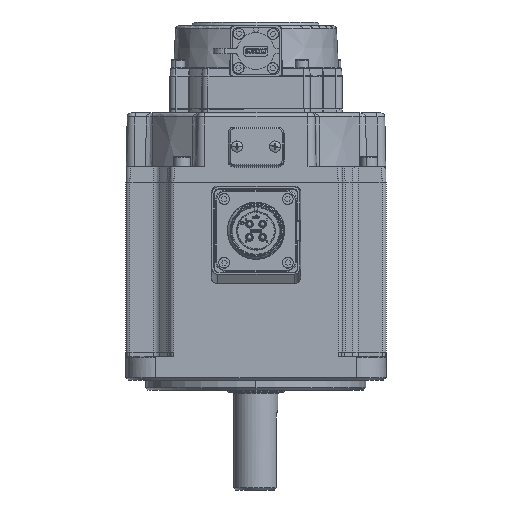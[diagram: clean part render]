
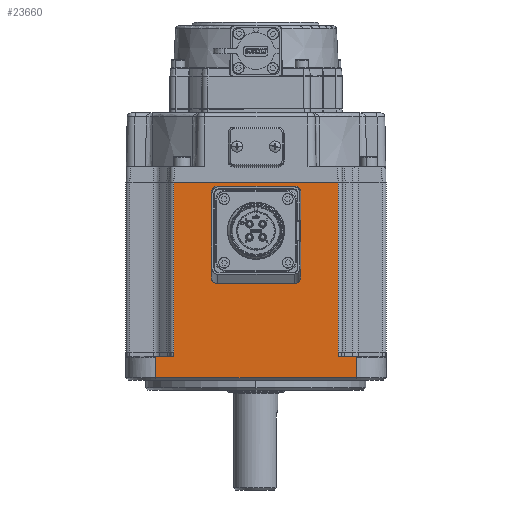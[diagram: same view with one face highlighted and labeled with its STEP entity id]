
A CAD part, left-side view. The second image highlights one B-rep face of the part: STEP entity #23660.
In plain terms, the highlighted planar face has unit normal (-1, 0, 0).
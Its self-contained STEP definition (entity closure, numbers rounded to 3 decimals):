
#2545 = CARTESIAN_POINT ( 'NONE',  ( -65., -43., 40.75 ) ) ;
#3335 = CARTESIAN_POINT ( 'NONE',  ( -65., -50., -56.75 ) ) ;
#3791 = LINE ( 'NONE', #95110, #38403 ) ;
#4225 = LINE ( 'NONE', #71577, #4676 ) ;
#4676 = VECTOR ( 'NONE', #29246, 1000. ) ;
#8214 = VECTOR ( 'NONE', #63442, 1000. ) ;
#9898 = VERTEX_POINT ( 'NONE', #16990 ) ;
#10588 = VERTEX_POINT ( 'NONE', #91207 ) ;
#13361 = CARTESIAN_POINT ( 'NONE',  ( -65., -41.035, 40.75 ) ) ;
#16286 = DIRECTION ( 'NONE',  ( 0., 0., 1. ) ) ;
#16990 = CARTESIAN_POINT ( 'NONE',  ( -65., 41.035, -43.75 ) ) ;
#18468 = CARTESIAN_POINT ( 'NONE',  ( -65., -41.459, -46.104 ) ) ;
#20657 = LINE ( 'NONE', #18468, #64518 ) ;
#21568 = EDGE_CURVE ( 'NONE', #9898, #35371, #3791, .T. ) ;
#23660 = ADVANCED_FACE ( 'NONE', ( #94947 ), #103880, .F. ) ;
#24792 = VECTOR ( 'NONE', #31161, 1000. ) ;
#26735 = CARTESIAN_POINT ( 'NONE',  ( -65., -50., -46.256 ) ) ;
#27571 = DIRECTION ( 'NONE',  ( 0., 1., 0. ) ) ;
#29246 = DIRECTION ( 'NONE',  ( 0., -1., 0. ) ) ;
#29871 = VECTOR ( 'NONE', #82827, 1000. ) ;
#31161 = DIRECTION ( 'NONE',  ( 0., 0., 1. ) ) ;
#31172 = AXIS2_PLACEMENT_3D ( 'NONE', #2545, #36486, #27571 ) ;
#31598 = CARTESIAN_POINT ( 'NONE',  ( -65., -44.464, -44.627 ) ) ;
#33246 = LINE ( 'NONE', #31598, #29871 ) ;
#33392 = CARTESIAN_POINT ( 'NONE',  ( -65., 41.035, 40.75 ) ) ;
#35371 = VERTEX_POINT ( 'NONE', #99896 ) ;
#36276 = DIRECTION ( 'NONE',  ( 0., -1., -0.018 ) ) ;
#36486 = DIRECTION ( 'NONE',  ( 1., 0., 0. ) ) ;
#37175 = ORIENTED_EDGE ( 'NONE', *, *, #57877, .F. ) ;
#37188 = DIRECTION ( 'NONE',  ( 0., 0., -1. ) ) ;
#38403 = VECTOR ( 'NONE', #37188, 1000. ) ;
#38578 = VERTEX_POINT ( 'NONE', #75082 ) ;
#40437 = LINE ( 'NONE', #50988, #43086 ) ;
#40669 = LINE ( 'NONE', #33392, #76987 ) ;
#42014 = VERTEX_POINT ( 'NONE', #49707 ) ;
#43086 = VECTOR ( 'NONE', #76032, 1000. ) ;
#43805 = CARTESIAN_POINT ( 'NONE',  ( -65., -41.035, -43.75 ) ) ;
#44937 = VERTEX_POINT ( 'NONE', #43805 ) ;
#46329 = ORIENTED_EDGE ( 'NONE', *, *, #52702, .F. ) ;
#48617 = LINE ( 'NONE', #83127, #83927 ) ;
#49103 = ORIENTED_EDGE ( 'NONE', *, *, #21568, .T. ) ;
#49655 = CARTESIAN_POINT ( 'NONE',  ( -65., 50., 40.75 ) ) ;
#49707 = CARTESIAN_POINT ( 'NONE',  ( -65., -50., -56.75 ) ) ;
#50106 = DIRECTION ( 'NONE',  ( 0., 0., -1. ) ) ;
#50942 = CARTESIAN_POINT ( 'NONE',  ( -65., 50., -46.247 ) ) ;
#50988 = CARTESIAN_POINT ( 'NONE',  ( -65., -50., 40.75 ) ) ;
#52702 = EDGE_CURVE ( 'NONE', #10588, #75759, #20657, .T. ) ;
#52858 = EDGE_CURVE ( 'NONE', #102066, #9898, #40669, .T. ) ;
#53142 = VERTEX_POINT ( 'NONE', #70119 ) ;
#54002 = LINE ( 'NONE', #3335, #8214 ) ;
#57877 = EDGE_CURVE ( 'NONE', #102066, #38578, #4225, .T. ) ;
#60494 = ORIENTED_EDGE ( 'NONE', *, *, #84887, .T. ) ;
#62320 = VERTEX_POINT ( 'NONE', #50942 ) ;
#63442 = DIRECTION ( 'NONE',  ( 0., -1., 0. ) ) ;
#64518 = VECTOR ( 'NONE', #36276, 1000. ) ;
#65012 = ORIENTED_EDGE ( 'NONE', *, *, #52858, .T. ) ;
#65273 = LINE ( 'NONE', #49655, #83609 ) ;
#65377 = EDGE_CURVE ( 'NONE', #10588, #44937, #97445, .T. ) ;
#68449 = EDGE_CURVE ( 'NONE', #62320, #53142, #65273, .T. ) ;
#69284 = ORIENTED_EDGE ( 'NONE', *, *, #68449, .T. ) ;
#69666 = ORIENTED_EDGE ( 'NONE', *, *, #65377, .T. ) ;
#70119 = CARTESIAN_POINT ( 'NONE',  ( -65., 50., -56.75 ) ) ;
#71377 = EDGE_CURVE ( 'NONE', #44937, #38578, #48617, .T. ) ;
#71577 = CARTESIAN_POINT ( 'NONE',  ( -65., -43., 40.75 ) ) ;
#75082 = CARTESIAN_POINT ( 'NONE',  ( -65., -41.035, 40.75 ) ) ;
#75759 = VERTEX_POINT ( 'NONE', #26735 ) ;
#76032 = DIRECTION ( 'NONE',  ( 0., 0., 1. ) ) ;
#76987 = VECTOR ( 'NONE', #50106, 1000. ) ;
#79461 = ORIENTED_EDGE ( 'NONE', *, *, #102474, .T. ) ;
#82827 = DIRECTION ( 'NONE',  ( 0., -1., 0.017 ) ) ;
#82901 = EDGE_LOOP ( 'NONE', ( #65012, #49103, #89355, #69284, #60494, #79461, #46329, #69666, #90969, #37175 ) ) ;
#83127 = CARTESIAN_POINT ( 'NONE',  ( -65., -41.035, 40.75 ) ) ;
#83609 = VECTOR ( 'NONE', #99760, 1000. ) ;
#83927 = VECTOR ( 'NONE', #16286, 1000. ) ;
#84379 = CARTESIAN_POINT ( 'NONE',  ( -65., 41.035, 40.75 ) ) ;
#84887 = EDGE_CURVE ( 'NONE', #53142, #42014, #54002, .T. ) ;
#87897 = EDGE_CURVE ( 'NONE', #62320, #35371, #33246, .T. ) ;
#89355 = ORIENTED_EDGE ( 'NONE', *, *, #87897, .F. ) ;
#90969 = ORIENTED_EDGE ( 'NONE', *, *, #71377, .T. ) ;
#91207 = CARTESIAN_POINT ( 'NONE',  ( -65., -41.035, -46.096 ) ) ;
#94947 = FACE_OUTER_BOUND ( 'NONE', #82901, .T. ) ;
#95110 = CARTESIAN_POINT ( 'NONE',  ( -65., 41.035, -43.75 ) ) ;
#97445 = LINE ( 'NONE', #13361, #24792 ) ;
#99760 = DIRECTION ( 'NONE',  ( 0., 0., -1. ) ) ;
#99896 = CARTESIAN_POINT ( 'NONE',  ( -65., 41.035, -46.094 ) ) ;
#102066 = VERTEX_POINT ( 'NONE', #84379 ) ;
#102474 = EDGE_CURVE ( 'NONE', #42014, #75759, #40437, .T. ) ;
#103880 = PLANE ( 'NONE',  #31172 ) ;
